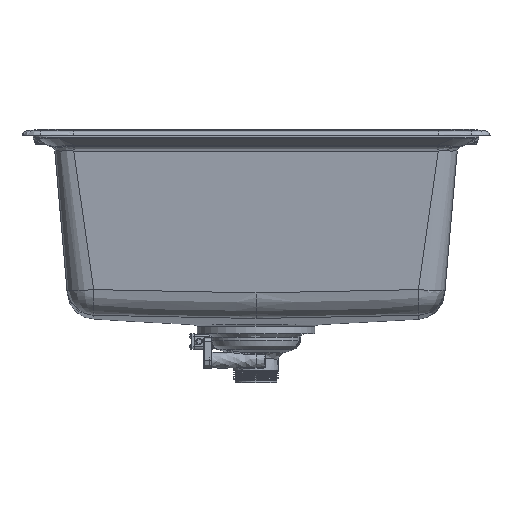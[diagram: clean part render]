
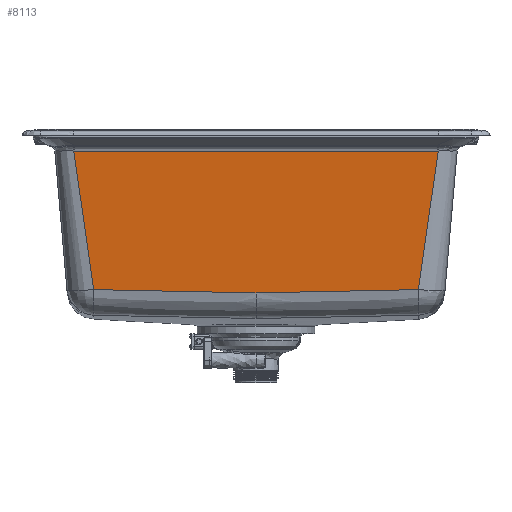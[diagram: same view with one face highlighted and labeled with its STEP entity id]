
A CAD part, front view. The second image highlights one B-rep face of the part: STEP entity #8113.
In plain terms, the highlighted planar face has unit normal (0, -0.996, -0.087).
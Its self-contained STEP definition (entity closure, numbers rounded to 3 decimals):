
#336=(
BOUNDED_CURVE()
B_SPLINE_CURVE(3,(#98924,#98925,#98926,#98927,#98928,#98929,#98930,#98931,
#98932,#98933),.UNSPECIFIED.,.F.,.F.)
B_SPLINE_CURVE_WITH_KNOTS((4,2,2,2,4),(0.,42.979,85.981,
172.08,173.373),.UNSPECIFIED.)
CURVE()
GEOMETRIC_REPRESENTATION_ITEM()
RATIONAL_B_SPLINE_CURVE((1.,1.,1.,1.,1.,1.,1.,1.,1.,1.))
REPRESENTATION_ITEM('')
);
#338=(
BOUNDED_CURVE()
B_SPLINE_CURVE(3,(#98942,#98943,#98944,#98945,#98946,#98947,#98948,#98949,
#98950,#98951),.UNSPECIFIED.,.F.,.F.)
B_SPLINE_CURVE_WITH_KNOTS((4,2,2,2,4),(0.,1.293,87.392,
130.393,173.373),.UNSPECIFIED.)
CURVE()
GEOMETRIC_REPRESENTATION_ITEM()
RATIONAL_B_SPLINE_CURVE((1.,1.,1.,1.,1.,1.,1.,1.,1.,1.))
REPRESENTATION_ITEM('')
);
#8113=ADVANCED_FACE('',(#10722),#44145,.T.);
#10722=FACE_OUTER_BOUND('',#13391,.T.);
#13391=EDGE_LOOP('',(#22050,#22051,#22052,#22053,#22054,#22055,#22056));
#22050=ORIENTED_EDGE('',*,*,#32071,.T.);
#22051=ORIENTED_EDGE('',*,*,#32072,.F.);
#22052=ORIENTED_EDGE('',*,*,#32064,.F.);
#22053=ORIENTED_EDGE('',*,*,#32066,.F.);
#22054=ORIENTED_EDGE('',*,*,#32073,.T.);
#22055=ORIENTED_EDGE('',*,*,#32074,.T.);
#22056=ORIENTED_EDGE('',*,*,#32075,.T.);
#32064=EDGE_CURVE('',#41516,#41514,#336,.T.);
#32066=EDGE_CURVE('',#41518,#41516,#338,.T.);
#32071=EDGE_CURVE('',#41522,#41520,#37316,.T.);
#32072=EDGE_CURVE('',#41514,#41520,#37317,.T.);
#32073=EDGE_CURVE('',#41518,#41523,#37318,.T.);
#32074=EDGE_CURVE('',#41523,#41524,#37319,.T.);
#32075=EDGE_CURVE('',#41524,#41522,#37320,.T.);
#37316=B_SPLINE_CURVE_WITH_KNOTS('',1,(#98982,#98983),.UNSPECIFIED.,.F.,
 .F.,(2,2),(0.,0.389),.UNSPECIFIED.);
#37317=B_SPLINE_CURVE_WITH_KNOTS('',1,(#98984,#98985),.UNSPECIFIED.,.F.,
 .F.,(2,2),(-150.123,0.),.UNSPECIFIED.);
#37318=B_SPLINE_CURVE_WITH_KNOTS('',1,(#98986,#98987),.UNSPECIFIED.,.F.,
 .F.,(2,2),(0.,150.123),.UNSPECIFIED.);
#37319=B_SPLINE_CURVE_WITH_KNOTS('',1,(#98988,#98989),.UNSPECIFIED.,.F.,
 .F.,(2,2),(0.,0.389),.UNSPECIFIED.);
#37320=B_SPLINE_CURVE_WITH_KNOTS('',1,(#98990,#98991),.UNSPECIFIED.,.F.,
 .F.,(2,2),(0.,388.469),.UNSPECIFIED.);
#41514=VERTEX_POINT('',#93810);
#41516=VERTEX_POINT('',#93812);
#41518=VERTEX_POINT('',#93814);
#41520=VERTEX_POINT('',#93816);
#41522=VERTEX_POINT('',#93818);
#41523=VERTEX_POINT('',#93819);
#41524=VERTEX_POINT('',#93820);
#44145=PLANE('',#46795);
#46795=AXIS2_PLACEMENT_3D('',#91036,#51736,$);
#51736=DIRECTION('',(0.,-0.996,-0.087));
#91036=CARTESIAN_POINT('',(233.668,-340.28,-182.938));
#93810=CARTESIAN_POINT('',(-173.326,-341.924,-164.145));
#93812=CARTESIAN_POINT('',(0.,-341.617,-167.654));
#93814=CARTESIAN_POINT('',(173.326,-341.924,-164.145));
#93816=CARTESIAN_POINT('',(-194.624,-354.876,-16.105));
#93818=CARTESIAN_POINT('',(-194.235,-354.876,-16.106));
#93819=CARTESIAN_POINT('',(194.624,-354.876,-16.105));
#93820=CARTESIAN_POINT('',(194.235,-354.876,-16.106));
#98924=CARTESIAN_POINT('',(0.,-341.617,-167.654));
#98925=CARTESIAN_POINT('',(-14.326,-341.617,-167.654));
#98926=CARTESIAN_POINT('',(-28.653,-341.625,-167.568));
#98927=CARTESIAN_POINT('',(-57.311,-341.653,-167.238));
#98928=CARTESIAN_POINT('',(-71.643,-341.675,-166.994));
#98929=CARTESIAN_POINT('',(-114.666,-341.756,-166.068));
#98930=CARTESIAN_POINT('',(-143.353,-341.832,-165.196));
#98931=CARTESIAN_POINT('',(-172.465,-341.921,-164.175));
#98932=CARTESIAN_POINT('',(-172.896,-341.923,-164.16));
#98933=CARTESIAN_POINT('',(-173.326,-341.924,-164.145));
#98942=CARTESIAN_POINT('',(173.326,-341.924,-164.145));
#98943=CARTESIAN_POINT('',(172.896,-341.923,-164.16));
#98944=CARTESIAN_POINT('',(172.465,-341.921,-164.175));
#98945=CARTESIAN_POINT('',(143.353,-341.832,-165.196));
#98946=CARTESIAN_POINT('',(114.666,-341.756,-166.068));
#98947=CARTESIAN_POINT('',(71.643,-341.675,-166.994));
#98948=CARTESIAN_POINT('',(57.311,-341.653,-167.238));
#98949=CARTESIAN_POINT('',(28.653,-341.625,-167.568));
#98950=CARTESIAN_POINT('',(14.326,-341.617,-167.654));
#98951=CARTESIAN_POINT('',(0.,-341.617,-167.654));
#98982=CARTESIAN_POINT('',(-194.235,-354.876,-16.106));
#98983=CARTESIAN_POINT('',(-194.624,-354.876,-16.105));
#98984=CARTESIAN_POINT('',(-173.326,-341.924,-164.145));
#98985=CARTESIAN_POINT('',(-194.624,-354.876,-16.105));
#98986=CARTESIAN_POINT('',(173.326,-341.924,-164.145));
#98987=CARTESIAN_POINT('',(194.624,-354.876,-16.105));
#98988=CARTESIAN_POINT('',(194.624,-354.876,-16.105));
#98989=CARTESIAN_POINT('',(194.235,-354.876,-16.106));
#98990=CARTESIAN_POINT('',(194.235,-354.876,-16.106));
#98991=CARTESIAN_POINT('',(-194.235,-354.876,-16.106));
